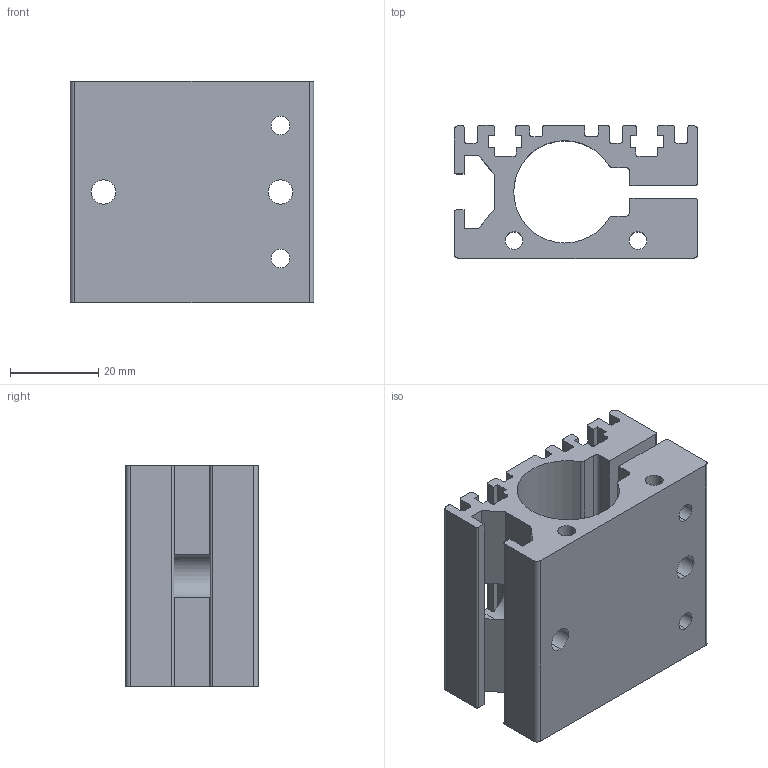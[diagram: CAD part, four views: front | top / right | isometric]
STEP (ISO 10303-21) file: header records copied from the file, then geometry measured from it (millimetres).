
FILE_DESCRIPTION (( 'STEP AP214' ), '1' );
FILE_NAME ('PF02-23x50.STEP', '2008-06-25T10:27:22', ( 'Ausderau' ), ( 'NTI AG' ), 'SwSTEP 2.0', 'SolidWorks 2005037', '' );
FILE_SCHEMA (( 'AUTOMOTIVE_DESIGN' ));
Length unit declared in the file: millimetre
Products named in the file (1): PF02-23x50
Bounding box: 55 x 30 x 50 mm (x, y, z)
Volume: 39656.1 mm3; surface area: 22143.7 mm2
Topology: 1 solids, 1 shells, 194 faces, 580 edges, 384 vertices
Faces by surface type: plane 108, cylinder 86
Entity records: 6805 total; most frequent: CARTESIAN_POINT 1395, ORIENTED_EDGE 1160, DIRECTION 1104, EDGE_CURVE 580, VERTEX_POINT 384, AXIS2_PLACEMENT_3D 373, LINE 358, VECTOR 358
